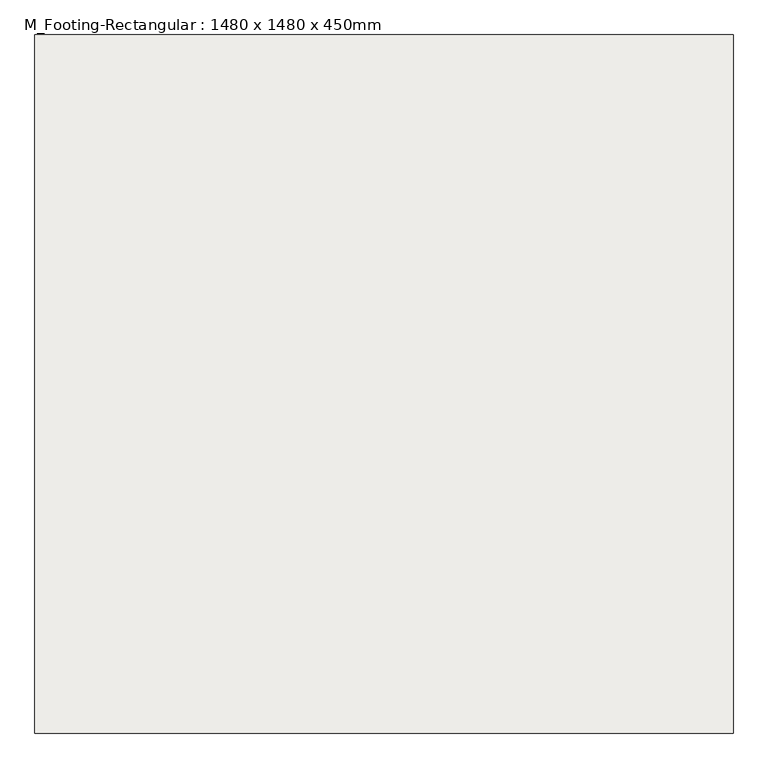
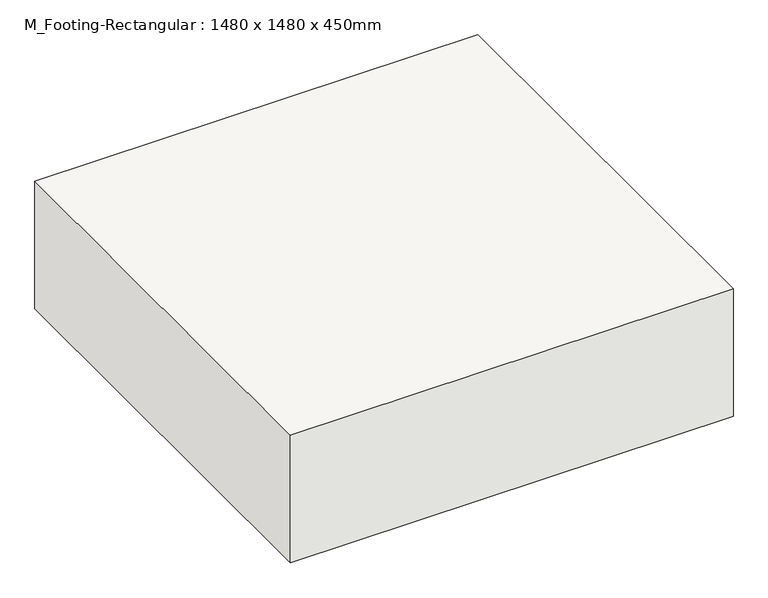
"""IFC4 building model written with IfcOpenShell, lengths in millimetres: slab geometry, M_Footing-Rectangular : 1480 x 1480 x 450mm."""

from ifc_helpers import new_model, si_unit, frame, origin, place, context, project, spatial, polyline, outline, extrude, source, transform, mapped, element, save


def m_footing_rectangular_1480_x_1480_x_450mm_d3d8ddf0(model_context):
    return source(origin(), model_context, "Body", "SweptSolid", [
        extrude(outline(polyline([(740.0, 740.0), (740.0, -740.0), (-740.0, -740.0), (-740.0, 740.0), (740.0, 740.0)])), frame((0.0, 0.0, -450.0), z_axis=(0.0, 0.0, 1.0), x_axis=(1.0, 0.0, 0.0)), (0.0, 0.0, 1.0), 450.0),
    ])


if __name__ == "__main__":
    model = new_model("IFC4")
    model_context = context("Model", 3, world=origin())
    ifc_project = project(units=[si_unit("LENGTHUNIT", "METRE", prefix="MILLI")], contexts=[model_context])
    site = spatial("IfcSite", under=ifc_project)
    building = spatial("IfcBuilding", under=site)
    placement = place(None, origin())
    m_footing_rectangular_1480_x_1480_x_450mm_shape = m_footing_rectangular_1480_x_1480_x_450mm_d3d8ddf0(model_context)
    element("IfcSlab", 1, ObjectType="M_Footing-Rectangular : 1480 x 1480 x 450mm", at=placement, inside=building, context=model_context, shape_type="MappedRepresentation", body=[
        mapped(m_footing_rectangular_1480_x_1480_x_450mm_shape, transform((0.0, 0.0, 0.0), x_axis=(1.0, 0.0, 0.0), y_axis=(0.0, 1.0, 0.0), z_axis=(0.0, 0.0, 1.0))),
    ])
    save(model, "model.ifc")
